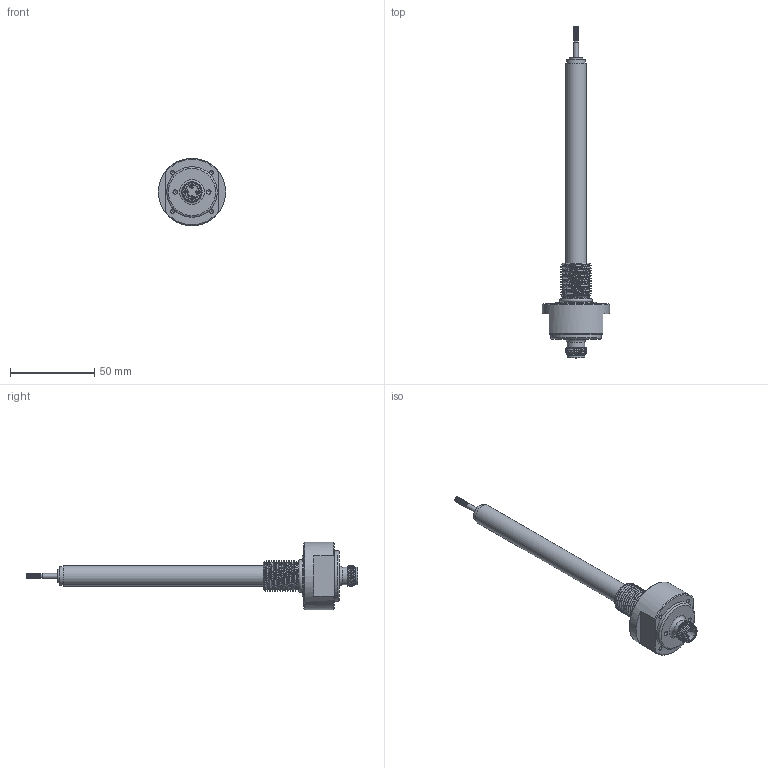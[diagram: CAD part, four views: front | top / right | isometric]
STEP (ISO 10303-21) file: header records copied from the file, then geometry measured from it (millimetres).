
FILE_DESCRIPTION( ( 'Unknown' ), '1' );
FILE_NAME( 'N:/Engineering/CAD/LVDT/HYD/Kunden-3D-Modell/SM50-HYD-M-18-S-M12.stp', 'Unknown', ( 'Unknown' ), ( 'Unknown' ), 'PSStep 17.0.49', 'Unknown', ' ' );
FILE_SCHEMA( ( 'AUTOMOTIVE_DESIGN { 1 0 10303 214 1 1 1 1 }' ) );
Length unit declared in the file: millimetre
Products named in the file (11): Einbaustecker_Waycon; Einbausteckverbinder_Waycon; Kontaktstift_M12; Assem1; Endkappe; Innenrohr_SM5-HYD; Kernverlängerung_SM5-HYD; SM-HYD-Flansch_M18_vereinfacht; O-Ring_15,4x2,1; Endkappe_HYD-KA_vereinfacht; Aussenrohr_SM50-HYD-M_vereinfacht
Assembly tree (13 placements, depth 3):
  Assem1
    Endkappe
    Innenrohr_SM5-HYD
    Kernverlängerung_SM5-HYD
    SM-HYD-Flansch_M18_vereinfacht
    O-Ring_15,4x2,1
    Endkappe_HYD-KA_vereinfacht
    Aussenrohr_SM50-HYD-M_vereinfacht
    Einbaustecker_Waycon
      Einbausteckverbinder_Waycon
      Kontaktstift_M12  x4
Bounding box: 40 x 197.2 x 40 mm (x, y, z)
Volume: 44627.9 mm3; surface area: 20902.2 mm2
Topology: 12 solids, 12 shells, 261 faces, 583 edges, 383 vertices
Faces by surface type: plane 122, cylinder 68, cone 37, extrusion 18, bspline 8, torus 8
Full cylindrical faces by diameter (mm): 0.5 x4, 1 x12, 1.2 x8, 1.8 x4, 2.013 x1, 2.4 x1, 2.5 x4, 2.6 x2, 3 x1, 4 x1, 6 x2, 8 x2, 8.2 x1, 8.3 x1, 9 x1, 9.35 x1, 9.55 x1, 10 x1, 10.05 x1, 10.5 x1, 10.6 x2, 11 x2, 12 x2, 15.8 x1, 22.5 x1, 24 x2, 30 x1, 40 x1
Entity records: 14294 total; most frequent: CARTESIAN_POINT 7955, DIRECTION 870, ORIENTED_EDGE 796, EDGE_CURVE 398, EDGE_LOOP 331, AXIS2_PLACEMENT_3D 327, VERTEX_POINT 309, FACE_OUTER_BOUND 264
